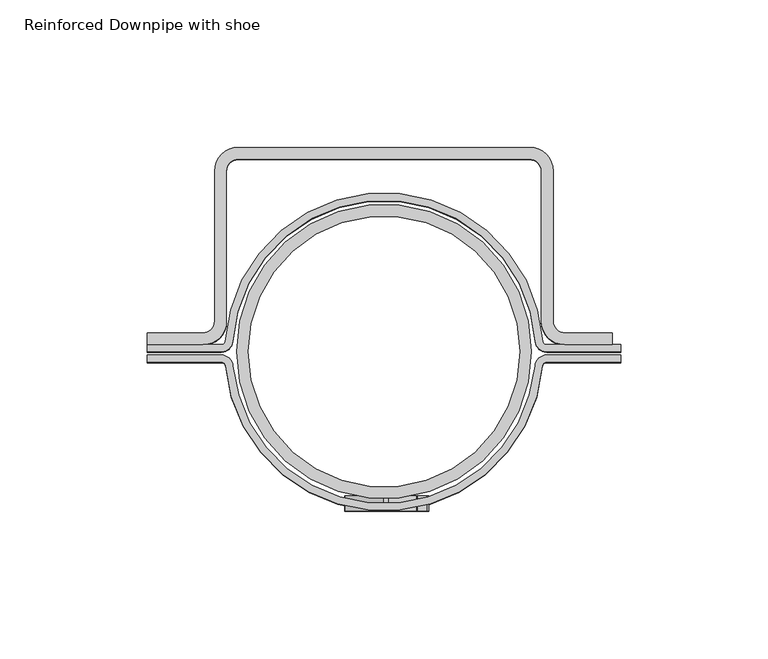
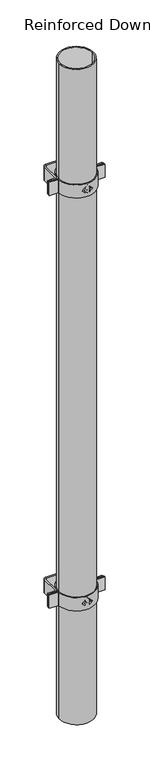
"""IFC4 building model written with IfcOpenShell, lengths in millimetres: proxy geometry, GROVIK_Special_Reinforced Downpipe : Reinforced Downpipe with shoe."""

from ifc_helpers import new_model, si_unit, point, frame, frame_2d, origin, origin_with_axes, origin_2d, place, context, project, spatial, polyline, circle_curve, ellipse_curve, trimmed, segment, composite_curve, outline, extrude, source, transform, mapped, element, save
from ifc_brep_helpers import plane_surface, cylinder_surface, revolved_surface, extruded_surface, advanced_brep


def reinforced_downpipe_with_shoe_aa567863(model_context):
    return source(origin(), model_context, "Body", "SolidModel", [
        advanced_brep(
        [(49.4031355, 65.3999965, 390.0), (53.4038442, 61.3999965, 390.0), (53.4038442, 10.3999972, 390.0), (61.4056235, 2.3999986, 390.0), (77.3803396, 2.3999986, 390.0), (77.3803396, 6.3999965, 390.0), (61.4027586, 6.3999965, 390.0), (57.4027651, 10.3999965, 390.0), (57.4027651, 61.3999965, 390.0), (49.4027779, 69.3999965, 390.0), (-49.4589164, 69.3999965, 390.0), (-57.4589035, 61.3999965, 390.0), (-57.4589035, 10.3999965, 390.0), (-61.4588971, 6.3999965, 390.0), (-80.3198522, 6.3999965, 390.0), (-80.3198522, 2.3999986, 390.0), (-61.4588971, 2.3999986, 390.0), (-53.45891, 10.3999972, 390.0), (-53.45891, 61.3999965, 390.0), (-49.4589164, 65.3999965, 390.0), (49.4031355, 65.3999965, 350.0), (-49.4589164, 65.3999965, 350.0), (-53.45891, 61.3999965, 350.0), (-53.45891, 10.3999972, 350.0), (-61.4588971, 2.3999986, 350.0), (-80.3198522, 2.3999986, 350.0), (-80.3198522, 6.3999965, 350.0), (-61.4588971, 6.3999965, 350.0), (-57.4589035, 10.3999965, 350.0), (-57.4589035, 61.3999965, 350.0), (-49.4589164, 69.3999965, 350.0), (49.4027779, 69.3999965, 350.0), (57.4027651, 61.3999965, 350.0), (57.4027651, 10.3999965, 350.0), (61.4027586, 6.3999965, 350.0), (77.3803396, 6.3999965, 350.0), (77.3803396, 2.3999986, 350.0), (61.4056235, 2.3999986, 350.0), (53.4038442, 10.3999972, 350.0), (53.4038442, 61.3999965, 350.0)],
        [
            (0, 1, ellipse_curve(frame((49.4031355, 61.3999965, 390.0), z_axis=(0.0, 0.0, -1.0), x_axis=(1.0, 0.0, 0.0)), 4.0007087, 4.0)),
            (1, 2),
            (2, 3, ellipse_curve(frame((61.4056235, 10.3999972, 390.0), z_axis=(0.0, 0.0, 1.0), x_axis=(1.0, 0.0, 0.0)), 8.0017793, 7.9999986)),
            (3, 4),
            (4, 5),
            (5, 6),
            (6, 7, ellipse_curve(frame((61.4027586, 10.3999965, 390.0), z_axis=(0.0, 0.0, -1.0), x_axis=(0.0, -1.0, 0.0)), 4.0, 3.9999936)),
            (7, 8),
            (8, 9, ellipse_curve(frame((49.4027779, 61.3999965, 390.0), z_axis=(0.0, 0.0, 1.0), x_axis=(0.0, 1.0, 0.0)), 8.0, 7.9999871)),
            (9, 10),
            (10, 11, ellipse_curve(frame((-49.4589164, 61.3999965, 390.0), z_axis=(0.0, 0.0, 1.0), x_axis=(0.0, 1.0, 0.0)), 8.0, 7.9999871)),
            (11, 12),
            (12, 13, ellipse_curve(frame((-61.4588971, 10.3999965, 390.0), z_axis=(0.0, 0.0, -1.0), x_axis=(0.0, -1.0, 0.0)), 4.0, 3.9999936)),
            (13, 14),
            (14, 15),
            (15, 16),
            (16, 17, ellipse_curve(frame((-61.4588971, 10.3999972, 390.0), z_axis=(0.0, 0.0, 1.0), x_axis=(0.0, 1.0, 0.0)), 7.9999986, 7.9999871)),
            (17, 18),
            (18, 19, ellipse_curve(frame((-49.4589164, 61.3999965, 390.0), z_axis=(0.0, 0.0, -1.0), x_axis=(0.0, 1.0, 0.0)), 4.0, 3.9999936)),
            (19, 0),
            (20, 21),
            (21, 22, ellipse_curve(frame((-49.4589164, 61.3999965, 350.0), z_axis=(0.0, 0.0, 1.0), x_axis=(0.0, 1.0, 0.0)), 4.0, 3.9999936)),
            (22, 23),
            (23, 24, ellipse_curve(frame((-61.4588971, 10.3999972, 350.0), z_axis=(0.0, 0.0, -1.0), x_axis=(0.0, 1.0, 0.0)), 7.9999986, 7.9999871)),
            (24, 25),
            (25, 26),
            (26, 27),
            (27, 28, ellipse_curve(frame((-61.4588971, 10.3999965, 350.0), z_axis=(0.0, 0.0, 1.0), x_axis=(1.0, 0.0, 0.0)), 3.9999936, 4.0)),
            (28, 29),
            (29, 30, ellipse_curve(frame((-49.4589164, 61.3999965, 350.0), z_axis=(0.0, 0.0, -1.0), x_axis=(0.0, 1.0, 0.0)), 8.0, 7.9999871)),
            (30, 31),
            (31, 32, ellipse_curve(frame((49.4027779, 61.3999965, 350.0), z_axis=(0.0, 0.0, -1.0), x_axis=(0.0, 1.0, 0.0)), 8.0, 7.9999871)),
            (32, 33),
            (33, 34, ellipse_curve(frame((61.4027586, 10.3999965, 350.0), z_axis=(0.0, 0.0, 1.0), x_axis=(0.0, -1.0, 0.0)), 4.0, 3.9999936)),
            (34, 35),
            (35, 36),
            (36, 37),
            (37, 38, ellipse_curve(frame((61.4056235, 10.3999972, 350.0), z_axis=(0.0, 0.0, -1.0), x_axis=(0.0, -1.0, 0.0)), 7.9999986, 8.0017793)),
            (38, 39),
            (39, 20, ellipse_curve(frame((49.4031355, 61.3999965, 350.0), z_axis=(0.0, 0.0, 1.0), x_axis=(1.0, 0.0, 0.0)), 4.0007087, 4.0)),
            (0, 20),
            (39, 1),
            (38, 2),
            (37, 3),
            (36, 4),
            (35, 5),
            (34, 6),
            (33, 7),
            (32, 8),
            (31, 9),
            (30, 10),
            (29, 11),
            (28, 12),
            (27, 13),
            (26, 14),
            (25, 15),
            (24, 16),
            (23, 17),
            (22, 18),
            (21, 19),
        ],
        [
            plane_surface(frame((53.4038442, 61.3999965, 390.0), z_axis=(0.0, 0.0, 1.0), x_axis=(0.0, -1.0, 0.0))),
            plane_surface(frame((53.4038442, 61.3999965, 350.0), z_axis=(0.0, 0.0, -1.0), x_axis=(0.0, 1.0, 0.0))),
            extruded_surface(trimmed(ellipse_curve(frame((49.4031355, 61.3999965, 310.0), z_axis=(0.0, 0.0, -1.0), x_axis=(1.0, 0.0, 0.0)), 4.0007087, 4.0), [point((49.4031355, 65.3999965, 310.0))], [point((53.4038442, 61.3999965, 310.0))], True, "CARTESIAN"), (0.0, 0.0, 40.0), 40.0),
            plane_surface(frame((53.4038442, 61.3999965, 390.0), z_axis=(-1.0, 0.0, 0.0), x_axis=(0.0, 0.0, -1.0))),
            extruded_surface(trimmed(ellipse_curve(frame((61.4056235, 10.3999972, 310.0), z_axis=(0.0, 0.0, 1.0), x_axis=(0.0, -1.0, 0.0)), 7.9999986, 8.0017793), [point((53.4038442, 10.3999972, 310.0))], [point((61.4056235, 2.3999986, 310.0))], True, "CARTESIAN"), (0.0, 0.0, 40.0), 40.0),
            plane_surface(frame((61.4056235, 2.3999986, 390.0), z_axis=(0.0, -1.0, 0.0), x_axis=(0.0, 0.0, -1.0))),
            plane_surface(frame((77.3803396, 2.3999986, 390.0), z_axis=(1.0, 0.0, 0.0), x_axis=(0.0, 0.0, -1.0))),
            plane_surface(frame((77.3803396, 6.3999965, 390.0), z_axis=(0.0, 1.0, 0.0), x_axis=(0.0, 0.0, -1.0))),
            extruded_surface(trimmed(ellipse_curve(frame((61.4027586, 10.3999965, 310.0), z_axis=(0.0, 0.0, -1.0), x_axis=(0.0, -1.0, 0.0)), 4.0, 3.9999936), [point((61.4027586, 6.3999965, 310.0))], [point((57.4027651, 10.3999965, 310.0))], True, "CARTESIAN"), (0.0, 0.0, 40.0), 40.0),
            plane_surface(frame((57.4027651, 10.3999965, 390.0), z_axis=(1.0, 0.0, 0.0), x_axis=(0.0, 0.0, -1.0))),
            extruded_surface(trimmed(ellipse_curve(frame((49.4027779, 61.3999965, 310.0), z_axis=(0.0, 0.0, 1.0), x_axis=(0.0, 1.0, 0.0)), 8.0, 7.9999871), [point((57.4027651, 61.3999965, 310.0))], [point((49.4027779, 69.3999965, 310.0))], True, "CARTESIAN"), (0.0, 0.0, 40.0), 40.0),
            plane_surface(frame((49.4027779, 69.3999965, 390.0), z_axis=(0.0, 1.0, 0.0), x_axis=(0.0, 0.0, -1.0))),
            extruded_surface(trimmed(ellipse_curve(frame((-49.4589164, 61.3999965, 310.0), z_axis=(0.0, 0.0, 1.0), x_axis=(0.0, 1.0, 0.0)), 8.0, 7.9999871), [point((-49.4589164, 69.3999965, 310.0))], [point((-57.4589035, 61.3999965, 310.0))], True, "CARTESIAN"), (0.0, 0.0, 40.0), 40.0),
            plane_surface(frame((-57.4589035, 61.3999965, 390.0), z_axis=(-1.0, 0.0, 0.0), x_axis=(0.0, 0.0, -1.0))),
            extruded_surface(trimmed(ellipse_curve(frame((-61.4588971, 10.3999965, 310.0), z_axis=(0.0, 0.0, -1.0), x_axis=(1.0, 0.0, 0.0)), 3.9999936, 4.0), [point((-57.4589035, 10.3999965, 310.0))], [point((-61.4588971, 6.3999965, 310.0))], True, "CARTESIAN"), (0.0, 0.0, 40.0), 40.0),
            plane_surface(frame((-61.4588971, 6.3999965, 390.0), z_axis=(0.0, 1.0, 0.0), x_axis=(0.0, 0.0, -1.0))),
            plane_surface(frame((-80.3198522, 6.3999965, 390.0), z_axis=(-1.0, 0.0, 0.0), x_axis=(0.0, 0.0, -1.0))),
            plane_surface(frame((-80.3198522, 2.3999986, 390.0), z_axis=(0.0, -1.0, 0.0), x_axis=(0.0, 0.0, -1.0))),
            extruded_surface(trimmed(ellipse_curve(frame((-61.4588971, 10.3999972, 310.0), z_axis=(0.0, 0.0, 1.0), x_axis=(0.0, 1.0, 0.0)), 7.9999986, 7.9999871), [point((-61.4588971, 2.3999986, 310.0))], [point((-53.45891, 10.3999972, 310.0))], True, "CARTESIAN"), (0.0, 0.0, 40.0), 40.0),
            plane_surface(frame((-53.45891, 10.3999972, 390.0), z_axis=(1.0, 0.0, 0.0), x_axis=(0.0, 0.0, -1.0))),
            extruded_surface(trimmed(ellipse_curve(frame((-49.4589164, 61.3999965, 310.0), z_axis=(0.0, 0.0, -1.0), x_axis=(0.0, 1.0, 0.0)), 4.0, 3.9999936), [point((-53.45891, 61.3999965, 310.0))], [point((-49.4589164, 65.3999965, 310.0))], True, "CARTESIAN"), (0.0, 0.0, 40.0), 40.0),
            plane_surface(frame((-49.4589164, 65.3999965, 390.0), z_axis=(0.0, -1.0, 0.0), x_axis=(0.0, 0.0, -1.0))),
        ],
        [
            (0, [[1, 2, 3, 4, 5, 6, 7, 8, 9, 10, 11, 12, 13, 14, 15, 16, 17, 18, 19, 20]]),
            (1, [[21, 22, 23, 24, 25, 26, 27, 28, 29, 30, 31, 32, 33, 34, 35, 36, 37, 38, 39, 40]]),
            (2, [[-1, 41, -40, 42]]),
            (3, [[-2, -42, -39, 43]]),
            (4, [[-3, -43, -38, 44]]),
            (5, [[-4, -44, -37, 45]]),
            (6, [[-5, -45, -36, 46]]),
            (7, [[-6, -46, -35, 47]]),
            (8, [[-7, -47, -34, 48]]),
            (9, [[-8, -48, -33, 49]]),
            (10, [[-9, -49, -32, 50]]),
            (11, [[-10, -50, -31, 51]]),
            (12, [[-11, -51, -30, 52]]),
            (13, [[-12, -52, -29, 53]]),
            (14, [[-13, -53, -28, 54]]),
            (15, [[-14, -54, -27, 55]]),
            (16, [[-15, -55, -26, 56]]),
            (17, [[-16, -56, -25, 57]]),
            (18, [[-17, -57, -24, 58]]),
            (19, [[-18, -58, -23, 59]]),
            (20, [[-19, -59, -22, 60]]),
            (21, [[-20, -60, -21, -41]]),
        ],
    ),
        extrude(outline(composite_curve([segment(trimmed(circle_curve(origin_2d(), 53.9779115), [point((53.7640439, -4.8002622))], [point((-53.7640439, -4.8002622))], False, "CARTESIAN"), True, "CONTINUOUS"), segment(trimmed(circle_curve(frame_2d((-55.1584969, -4.9247644)), 1.4), [point((-53.7640439, -4.8002622))], [point((-55.1584969, -3.5247644))], True, "CARTESIAN"), True, "CONTINUOUS"), segment(polyline([(-55.1584969, -3.5247644), (-80.3206157, -3.5247644), (-80.3206157, -1.0895461), (-55.3572815, -1.0895461)]), True, "CONTINUOUS"), segment(trimmed(circle_curve(frame_2d((-55.3572815, -5.1895461)), 4.1), [point((-55.3572815, -1.0895461))], [point((-51.2751798, -4.8068637))], False, "CARTESIAN"), True, "CONTINUOUS"), segment(trimmed(circle_curve(origin_2d(), 51.5), [point((-51.2751798, -4.8068637))], [point((51.2751798, -4.8068637))], True, "CARTESIAN"), True, "CONTINUOUS"), segment(trimmed(circle_curve(frame_2d((55.3572815, -5.1895461)), 4.1), [point((51.2751798, -4.8068637))], [point((55.3572815, -1.0895461))], False, "CARTESIAN"), True, "CONTINUOUS"), segment(polyline([(55.3572815, -1.0895461), (80.3206157, -1.0895461), (80.3206157, -3.5247644), (55.1584969, -3.5247644)]), True, "CONTINUOUS"), segment(trimmed(circle_curve(frame_2d((55.1584969, -4.9247644)), 1.4), [point((55.1584969, -3.5247644))], [point((53.7640439, -4.8002622))], True, "CARTESIAN"), True, "CONTINUOUS")], self_intersect=False)), frame((0.0, 0.0, 350.0), z_axis=(0.0, 0.0, 1.0), x_axis=(1.0, 0.0, 0.0)), (0.0, 0.0, 1.0), 40.0),
        extrude(outline(composite_curve([segment(polyline([(-80.3206157, 0.030981), (-80.3206157, 2.4), (-55.060348, 2.4)]), True, "CONTINUOUS"), segment(trimmed(circle_curve(frame_2d((-55.060348, 3.6)), 1.2), [point((-55.060348, 2.4))], [point((-53.8629048, 3.5217078))], True, "CARTESIAN"), True, "CONTINUOUS"), segment(trimmed(circle_curve(origin_2d(), 53.9779115), [point((-53.8629048, 3.5217078))], [point((53.8629048, 3.5217078))], False, "CARTESIAN"), True, "CONTINUOUS"), segment(trimmed(circle_curve(frame_2d((55.060348, 3.6)), 1.2), [point((53.8629048, 3.5217078))], [point((55.060348, 2.4))], True, "CARTESIAN"), True, "CONTINUOUS"), segment(polyline([(55.060348, 2.4), (80.3206157, 2.4), (80.3206157, 0.030981), (55.1671423, 0.030981)]), True, "CONTINUOUS"), segment(trimmed(circle_curve(frame_2d((55.1671423, 3.830981)), 3.8), [point((55.1671423, 0.030981))], [point((51.3762717, 3.567731))], False, "CARTESIAN"), True, "CONTINUOUS"), segment(trimmed(circle_curve(origin_2d(), 51.5), [point((51.3762717, 3.567731))], [point((-51.3762717, 3.567731))], True, "CARTESIAN"), True, "CONTINUOUS"), segment(trimmed(circle_curve(frame_2d((-55.1671423, 3.830981)), 3.8), [point((-51.3762717, 3.567731))], [point((-55.1671423, 0.030981))], False, "CARTESIAN"), True, "CONTINUOUS"), segment(polyline([(-55.1671423, 0.030981), (-80.3206157, 0.030981)]), True, "CONTINUOUS")], self_intersect=False)), frame((0.0, 0.0, 350.0), z_axis=(0.0, 0.0, 1.0), x_axis=(1.0, 0.0, 0.0)), (0.0, 0.0, 1.0), 40.0),
        advanced_brep(
        [(15.0074452, -53.9779115, 370.3702957), (14.6554236, -53.9779115, 371.2244821), (0.1135175, -53.9779115, 371.250567), (0.0571404, -53.9779115, 369.0208304), (7.7378065, -53.9779115, 368.935265), (8.0851148, -53.9779115, 368.0805643), (1.5927423, -53.9779115, 361.5391979), (0.402719, -53.9779115, 361.3901524), (-8.6884833, -53.9779115, 370.5140196), (-8.686874, -53.9779115, 371.4111867), (0.4375482, -53.9779115, 380.5029242), (1.5906358, -53.9779115, 380.3129279), (7.0995966, -53.9779115, 374.8573801), (8.0888084, -53.9779115, 374.445555), (10.7738438, -53.9779115, 374.4407386), (11.1287855, -53.9779115, 375.2937991), (1.634413, -53.9779115, 384.894078), (-0.0045863, -53.9779115, 384.5994837), (-13.228073, -53.9779115, 371.4233649), (-13.2296928, -53.9779115, 370.5203393), (0.3948919, -53.9779115, 356.8468012), (1.5484381, -53.9779115, 357.0324447), (15.0074452, -48.9779115, 370.3702957), (1.5849152, -48.9779115, 356.9958467), (0.3948919, -48.9779115, 356.8468012), (-13.2296928, -48.9779115, 370.5203393), (-13.228073, -48.9779115, 371.4233649), (-0.0045863, -48.9779115, 384.5994837), (1.5980197, -48.9779115, 384.8573955), (11.1649448, -48.9779115, 375.3293029), (10.7738438, -48.9779115, 374.4407386), (8.0888084, -48.9779115, 374.445555), (7.0995966, -48.9779115, 374.8573801), (1.6270292, -48.9779115, 380.3496105), (0.4375482, -48.9779115, 380.5029242), (-8.686874, -48.9779115, 371.4111867), (-8.6884833, -48.9779115, 370.5140196), (0.402719, -48.9779115, 361.3901524), (1.5562651, -48.9779115, 361.5757959), (8.121225, -48.9779115, 368.0442949), (7.7373749, -48.9779115, 368.9345933), (0.0571404, -48.9779115, 369.0208304), (0.1135175, -48.9779115, 371.250567), (14.6554236, -48.9779115, 371.2244821)],
        [
            (0, 1, circle_curve(frame((14.6545267, -53.9779115, 370.7244829), z_axis=(0.0, -1.0, 0.0), x_axis=(-1.0, 0.0, 0.0)), 0.5)),
            (1, 2),
            (2, 3, circle_curve(frame((0.1085792, -53.9779115, 370.1351108), z_axis=(0.0, -1.0, 0.0), x_axis=(-1.0, 0.0, 0.0)), 1.1154671)),
            (3, 4),
            (4, 5, circle_curve(frame((7.7320659, -53.9779115, 368.4346214), z_axis=(0.0, 1.0, 0.0), x_axis=(-1.0, 0.0, 0.0)), 0.5)),
            (5, 6),
            (6, 7, circle_curve(frame((0.8505361, -53.9779115, 362.2842776), z_axis=(0.0, 1.0, 0.0), x_axis=(-1.0, 0.0, 0.0)), 1.0)),
            (7, 8),
            (8, 9, circle_curve(frame((-7.7939395, -53.9779115, 370.9609999), z_axis=(0.0, 1.0, 0.0), x_axis=(-1.0, 0.0, 0.0)), 1.0)),
            (9, 10),
            (10, 11, circle_curve(frame((0.8821547, -53.9779115, 379.6071982), z_axis=(0.0, 1.0, 0.0), x_axis=(-1.0, 0.0, 0.0)), 1.0)),
            (11, 12),
            (12, 13, circle_curve(frame((8.0913197, -53.9779115, 375.8455527), z_axis=(0.0, -1.0, 0.0), x_axis=(-1.0, 0.0, 0.0)), 1.4)),
            (13, 14),
            (14, 15, circle_curve(frame((10.7747407, -53.9779115, 374.9407378), z_axis=(0.0, -1.0, 0.0), x_axis=(-1.0, 0.0, 0.0)), 0.5)),
            (15, 16),
            (16, 17, circle_curve(frame((0.8895385, -53.9779115, 384.1516658), z_axis=(0.0, -1.0, 0.0), x_axis=(-1.0, 0.0, 0.0)), 1.0)),
            (17, 18),
            (18, 19, circle_curve(frame((-12.3366201, -53.9779115, 370.9702516), z_axis=(0.0, -1.0, 0.0), x_axis=(-1.0, 0.0, 0.0)), 1.0)),
            (19, 20),
            (20, 21, circle_curve(frame((0.842709, -53.9779115, 357.7409265), z_axis=(0.0, -1.0, 0.0), x_axis=(-1.0, 0.0, 0.0)), 1.0)),
            (21, 0),
            (22, 23),
            (23, 24, circle_curve(frame((0.842709, -48.9779115, 357.7409265), z_axis=(0.0, 1.0, 0.0), x_axis=(-1.0, 0.0, 0.0)), 1.0)),
            (24, 25),
            (25, 26, circle_curve(frame((-12.3366201, -48.9779115, 370.9702516), z_axis=(0.0, 1.0, 0.0), x_axis=(-1.0, 0.0, 0.0)), 1.0)),
            (26, 27),
            (27, 28, circle_curve(frame((0.8895385, -48.9779115, 384.1516658), z_axis=(0.0, 1.0, 0.0), x_axis=(-1.0, 0.0, 0.0)), 1.0)),
            (28, 29),
            (29, 30, circle_curve(frame((10.7747407, -48.9779115, 374.9407378), z_axis=(0.0, 1.0, 0.0), x_axis=(-1.0, 0.0, 0.0)), 0.5)),
            (30, 31),
            (31, 32, circle_curve(frame((8.0913197, -48.9779115, 375.8455527), z_axis=(0.0, 1.0, 0.0), x_axis=(-1.0, 0.0, 0.0)), 1.4)),
            (32, 33),
            (33, 34, circle_curve(frame((0.8821547, -48.9779115, 379.6071982), z_axis=(0.0, -1.0, 0.0), x_axis=(-1.0, 0.0, 0.0)), 1.0)),
            (34, 35),
            (35, 36, circle_curve(frame((-7.7939395, -48.9779115, 370.9609999), z_axis=(0.0, -1.0, 0.0), x_axis=(-1.0, 0.0, 0.0)), 1.0)),
            (36, 37),
            (37, 38, circle_curve(frame((0.8505361, -48.9779115, 362.2842776), z_axis=(0.0, -1.0, 0.0), x_axis=(-1.0, 0.0, 0.0)), 1.0)),
            (38, 39),
            (39, 40, circle_curve(frame((7.7320659, -48.9779115, 368.4346214), z_axis=(0.0, -1.0, 0.0), x_axis=(-1.0, 0.0, 0.0)), 0.5)),
            (40, 41),
            (41, 42, circle_curve(frame((0.1085792, -48.9779115, 370.1351108), z_axis=(0.0, 1.0, 0.0), x_axis=(-1.0, 0.0, 0.0)), 1.1154671)),
            (42, 43),
            (43, 22, circle_curve(frame((14.6545267, -48.9779115, 370.7244829), z_axis=(0.0, 1.0, 0.0), x_axis=(-1.0, 0.0, 0.0)), 0.5)),
            (0, 22),
            (43, 1),
            (42, 2),
            (41, 3),
            (40, 4),
            (39, 5),
            (38, 6),
            (37, 7),
            (36, 8),
            (35, 9),
            (34, 10),
            (33, 11),
            (32, 12),
            (31, 13),
            (30, 14),
            (29, 15),
            (28, 16),
            (27, 17),
            (26, 18),
            (25, 19),
            (24, 20),
            (23, 21),
        ],
        [
            plane_surface(frame((14.1545267, -53.9779115, 370.7244829), z_axis=(0.0, -1.0, 0.0), x_axis=(0.0, 0.0, -1.0))),
            plane_surface(frame((14.1545267, -48.9779115, 370.7244829), z_axis=(0.0, 1.0, 0.0), x_axis=(0.0, 0.0, 1.0))),
            cylinder_surface(frame((14.6545267, -48.9779115, 370.7244829), z_axis=(0.0, -1.0, 0.0), x_axis=(-1.0, 0.0, 0.0)), 0.5),
            plane_surface(frame((14.6554236, -53.9779115, 371.2244821), z_axis=(0.0017937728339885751, 0.0, 0.9999983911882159), x_axis=(0.0, 1.0, 0.0))),
            cylinder_surface(frame((0.1085792, -48.9779115, 370.1351108), z_axis=(0.0, -1.0, 0.0), x_axis=(-1.0, 0.0, 0.0)), 1.1154671),
            plane_surface(frame((0.0571404, -53.9779115, 369.0208304), z_axis=(-0.011139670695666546, 0.0, -0.9999379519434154), x_axis=(0.0, 1.0, 0.0))),
            revolved_surface(polyline([(7.2320659, -48.9779115, 368.4346214), (7.2320659, -53.9779115, 368.4346214)]), (7.7320659, -48.9779115, 368.4346214), (0.0, 1.0, 0.0)),
            plane_surface(frame((8.121225, -53.9779115, 368.0442949), z_axis=(-0.7058369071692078, 0.0, 0.7083743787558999), x_axis=(0.0, 1.0, 0.0))),
            revolved_surface(polyline([(-0.14946389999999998, -48.9779115, 362.2842776), (-0.14946389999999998, -53.9779115, 362.2842776)]), (0.8505361, -48.9779115, 362.2842776), (0.0, 1.0, 0.0)),
            plane_surface(frame((0.402719, -53.9779115, 361.3901524), z_axis=(0.7083736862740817, 0.0, 0.7058376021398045), x_axis=(0.0, 1.0, 0.0))),
            revolved_surface(polyline([(-8.7939395, -48.9779115, 370.9609999), (-8.7939395, -53.9779115, 370.9609999)]), (-7.7939395, -48.9779115, 370.9609999), (0.0, 1.0, 0.0)),
            plane_surface(frame((-8.686874, -53.9779115, 371.4111867), z_axis=(0.705836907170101, 0.0, -0.7083743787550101), x_axis=(0.0, 1.0, 0.0))),
            revolved_surface(polyline([(-0.11784530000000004, -48.9779115, 379.6071982), (-0.11784530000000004, -53.9779115, 379.6071982)]), (0.8821547, -48.9779115, 379.6071982), (0.0, 1.0, 0.0)),
            plane_surface(frame((1.6270292, -53.9779115, 380.3496105), z_axis=(-0.7083736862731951, 0.0, -0.7058376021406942), x_axis=(0.0, 1.0, 0.0))),
            cylinder_surface(frame((8.0913197, -48.9779115, 375.8455527), z_axis=(0.0, -1.0, 0.0), x_axis=(-1.0, 0.0, 0.0)), 1.4),
            plane_surface(frame((8.0888084, -53.9779115, 374.445555), z_axis=(-0.0017937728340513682, 0.0, -0.9999983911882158), x_axis=(0.0, 1.0, 0.0))),
            cylinder_surface(frame((10.7747407, -48.9779115, 374.9407378), z_axis=(0.0, -1.0, 0.0), x_axis=(-1.0, 0.0, 0.0)), 0.5),
            plane_surface(frame((11.1649448, -53.9779115, 375.3293029), z_axis=(0.7083736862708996, 0.0, 0.7058376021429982), x_axis=(0.0, 1.0, 0.0))),
            cylinder_surface(frame((0.8895385, -48.9779115, 384.1516658), z_axis=(0.0, -1.0, 0.0), x_axis=(-1.0, 0.0, 0.0)), 1.0),
            plane_surface(frame((-0.0045863, -53.9779115, 384.5994837), z_axis=(-0.7058369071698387, 0.0, 0.7083743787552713), x_axis=(0.0, 1.0, 0.0))),
            cylinder_surface(frame((-12.3366201, -48.9779115, 370.9702516), z_axis=(0.0, -1.0, 0.0), x_axis=(-1.0, 0.0, 0.0)), 1.0),
            plane_surface(frame((-13.2296928, -53.9779115, 370.5203393), z_axis=(-0.7083736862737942, 0.0, -0.7058376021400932), x_axis=(0.0, 1.0, 0.0))),
            cylinder_surface(frame((0.842709, -48.9779115, 357.7409265), z_axis=(0.0, -1.0, 0.0), x_axis=(-1.0, 0.0, 0.0)), 1.0),
            plane_surface(frame((1.5849152, -53.9779115, 356.9958467), z_axis=(0.7058369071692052, 0.0, -0.7083743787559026), x_axis=(0.0, 1.0, 0.0))),
        ],
        [
            (0, [[1, 2, 3, 4, 5, 6, 7, 8, 9, 10, 11, 12, 13, 14, 15, 16, 17, 18, 19, 20, 21, 22]]),
            (1, [[23, 24, 25, 26, 27, 28, 29, 30, 31, 32, 33, 34, 35, 36, 37, 38, 39, 40, 41, 42, 43, 44]]),
            (2, [[-1, 45, -44, 46]]),
            (3, [[-2, -46, -43, 47]]),
            (4, [[-3, -47, -42, 48]]),
            (5, [[-4, -48, -41, 49]]),
            (6, [[-5, -49, -40, 50]]),
            (7, [[-6, -50, -39, 51]]),
            (8, [[-7, -51, -38, 52]]),
            (9, [[-8, -52, -37, 53]]),
            (10, [[-9, -53, -36, 54]]),
            (11, [[-10, -54, -35, 55]]),
            (12, [[-11, -55, -34, 56]]),
            (13, [[-12, -56, -33, 57]]),
            (14, [[-13, -57, -32, 58]]),
            (15, [[-14, -58, -31, 59]]),
            (16, [[-15, -59, -30, 60]]),
            (17, [[-16, -60, -29, 61]]),
            (18, [[-17, -61, -28, 62]]),
            (19, [[-18, -62, -27, 63]]),
            (20, [[-19, -63, -26, 64]]),
            (21, [[-20, -64, -25, 65]]),
            (22, [[-21, -65, -24, 66]]),
            (23, [[-22, -66, -23, -45]]),
        ],
    ),
        advanced_brep(
        [(49.4031355, 65.3999965, 1650.0), (53.4038442, 61.3999965, 1650.0), (53.4038442, 10.3999972, 1650.0), (61.4056235, 2.3999986, 1650.0), (77.3803396, 2.3999986, 1650.0), (77.3803396, 6.3999965, 1650.0), (61.4027586, 6.3999965, 1650.0), (57.4027651, 10.3999965, 1650.0), (57.4027651, 61.3999965, 1650.0), (49.4027779, 69.3999965, 1650.0), (-49.4589164, 69.3999965, 1650.0), (-57.4589035, 61.3999965, 1650.0), (-57.4589035, 10.3999965, 1650.0), (-61.4588971, 6.3999965, 1650.0), (-80.3198522, 6.3999965, 1650.0), (-80.3198522, 2.3999986, 1650.0), (-61.4588971, 2.3999986, 1650.0), (-53.45891, 10.3999972, 1650.0), (-53.45891, 61.3999965, 1650.0), (-49.4589164, 65.3999965, 1650.0), (49.4031355, 65.3999965, 1610.0), (-49.4589164, 65.3999965, 1610.0), (-53.45891, 61.3999965, 1610.0), (-53.45891, 10.3999972, 1610.0), (-61.4588971, 2.3999986, 1610.0), (-80.3198522, 2.3999986, 1610.0), (-80.3198522, 6.3999965, 1610.0), (-61.4588971, 6.3999965, 1610.0), (-57.4589035, 10.3999965, 1610.0), (-57.4589035, 61.3999965, 1610.0), (-49.4589164, 69.3999965, 1610.0), (49.4027779, 69.3999965, 1610.0), (57.4027651, 61.3999965, 1610.0), (57.4027651, 10.3999965, 1610.0), (61.4027586, 6.3999965, 1610.0), (77.3803396, 6.3999965, 1610.0), (77.3803396, 2.3999986, 1610.0), (61.4056235, 2.3999986, 1610.0), (53.4038442, 10.3999972, 1610.0), (53.4038442, 61.3999965, 1610.0)],
        [
            (0, 1, ellipse_curve(frame((49.4031355, 61.3999965, 1650.0), z_axis=(0.0, 0.0, -1.0), x_axis=(1.0, 0.0, 0.0)), 4.0007087, 4.0)),
            (1, 2),
            (2, 3, ellipse_curve(frame((61.4056235, 10.3999972, 1650.0), z_axis=(0.0, 0.0, 1.0), x_axis=(1.0, 0.0, 0.0)), 8.0017793, 7.9999986)),
            (3, 4),
            (4, 5),
            (5, 6),
            (6, 7, ellipse_curve(frame((61.4027586, 10.3999965, 1650.0), z_axis=(0.0, 0.0, -1.0), x_axis=(0.0, -1.0, 0.0)), 4.0, 3.9999936)),
            (7, 8),
            (8, 9, ellipse_curve(frame((49.4027779, 61.3999965, 1650.0), z_axis=(0.0, 0.0, 1.0), x_axis=(0.0, 1.0, 0.0)), 8.0, 7.9999871)),
            (9, 10),
            (10, 11, ellipse_curve(frame((-49.4589164, 61.3999965, 1650.0), z_axis=(0.0, 0.0, 1.0), x_axis=(0.0, 1.0, 0.0)), 8.0, 7.9999871)),
            (11, 12),
            (12, 13, ellipse_curve(frame((-61.4588971, 10.3999965, 1650.0), z_axis=(0.0, 0.0, -1.0), x_axis=(0.0, -1.0, 0.0)), 4.0, 3.9999936)),
            (13, 14),
            (14, 15),
            (15, 16),
            (16, 17, ellipse_curve(frame((-61.4588971, 10.3999972, 1650.0), z_axis=(0.0, 0.0, 1.0), x_axis=(0.0, 1.0, 0.0)), 7.9999986, 7.9999871)),
            (17, 18),
            (18, 19, ellipse_curve(frame((-49.4589164, 61.3999965, 1650.0), z_axis=(0.0, 0.0, -1.0), x_axis=(0.0, 1.0, 0.0)), 4.0, 3.9999936)),
            (19, 0),
            (20, 21),
            (21, 22, ellipse_curve(frame((-49.4589164, 61.3999965, 1610.0), z_axis=(0.0, 0.0, 1.0), x_axis=(0.0, 1.0, 0.0)), 4.0, 3.9999936)),
            (22, 23),
            (23, 24, ellipse_curve(frame((-61.4588971, 10.3999972, 1610.0), z_axis=(0.0, 0.0, -1.0), x_axis=(0.0, 1.0, 0.0)), 7.9999986, 7.9999871)),
            (24, 25),
            (25, 26),
            (26, 27),
            (27, 28, ellipse_curve(frame((-61.4588971, 10.3999965, 1610.0), z_axis=(0.0, 0.0, 1.0), x_axis=(1.0, 0.0, 0.0)), 3.9999936, 4.0)),
            (28, 29),
            (29, 30, ellipse_curve(frame((-49.4589164, 61.3999965, 1610.0), z_axis=(0.0, 0.0, -1.0), x_axis=(0.0, 1.0, 0.0)), 8.0, 7.9999871)),
            (30, 31),
            (31, 32, ellipse_curve(frame((49.4027779, 61.3999965, 1610.0), z_axis=(0.0, 0.0, -1.0), x_axis=(0.0, 1.0, 0.0)), 8.0, 7.9999871)),
            (32, 33),
            (33, 34, ellipse_curve(frame((61.4027586, 10.3999965, 1610.0), z_axis=(0.0, 0.0, 1.0), x_axis=(0.0, -1.0, 0.0)), 4.0, 3.9999936)),
            (34, 35),
            (35, 36),
            (36, 37),
            (37, 38, ellipse_curve(frame((61.4056235, 10.3999972, 1610.0), z_axis=(0.0, 0.0, -1.0), x_axis=(0.0, -1.0, 0.0)), 7.9999986, 8.0017793)),
            (38, 39),
            (39, 20, ellipse_curve(frame((49.4031355, 61.3999965, 1610.0), z_axis=(0.0, 0.0, 1.0), x_axis=(1.0, 0.0, 0.0)), 4.0007087, 4.0)),
            (0, 20),
            (39, 1),
            (38, 2),
            (37, 3),
            (36, 4),
            (35, 5),
            (34, 6),
            (33, 7),
            (32, 8),
            (31, 9),
            (30, 10),
            (29, 11),
            (28, 12),
            (27, 13),
            (26, 14),
            (25, 15),
            (24, 16),
            (23, 17),
            (22, 18),
            (21, 19),
        ],
        [
            plane_surface(frame((53.4038442, 61.3999965, 1650.0), z_axis=(0.0, 0.0, 1.0), x_axis=(0.0, -1.0, 0.0))),
            plane_surface(frame((53.4038442, 61.3999965, 1610.0), z_axis=(0.0, 0.0, -1.0), x_axis=(0.0, 1.0, 0.0))),
            extruded_surface(trimmed(ellipse_curve(frame((49.4031355, 61.3999965, 1570.0), z_axis=(0.0, 0.0, -1.0), x_axis=(1.0, 0.0, 0.0)), 4.0007087, 4.0), [point((49.4031355, 65.3999965, 1570.0))], [point((53.4038442, 61.3999965, 1570.0))], True, "CARTESIAN"), (0.0, 0.0, 40.0), 40.0),
            plane_surface(frame((53.4038442, 61.3999965, 1650.0), z_axis=(-1.0, 0.0, 0.0), x_axis=(0.0, 0.0, -1.0))),
            extruded_surface(trimmed(ellipse_curve(frame((61.4056235, 10.3999972, 1570.0), z_axis=(0.0, 0.0, 1.0), x_axis=(0.0, -1.0, 0.0)), 7.9999986, 8.0017793), [point((53.4038442, 10.3999972, 1570.0))], [point((61.4056235, 2.3999986, 1570.0))], True, "CARTESIAN"), (0.0, 0.0, 40.0), 40.0),
            plane_surface(frame((61.4056235, 2.3999986, 1650.0), z_axis=(0.0, -1.0, 0.0), x_axis=(0.0, 0.0, -1.0))),
            plane_surface(frame((77.3803396, 2.3999986, 1650.0), z_axis=(1.0, 0.0, 0.0), x_axis=(0.0, 0.0, -1.0))),
            plane_surface(frame((77.3803396, 6.3999965, 1650.0), z_axis=(0.0, 1.0, 0.0), x_axis=(0.0, 0.0, -1.0))),
            extruded_surface(trimmed(ellipse_curve(frame((61.4027586, 10.3999965, 1570.0), z_axis=(0.0, 0.0, -1.0), x_axis=(0.0, -1.0, 0.0)), 4.0, 3.9999936), [point((61.4027586, 6.3999965, 1570.0))], [point((57.4027651, 10.3999965, 1570.0))], True, "CARTESIAN"), (0.0, 0.0, 40.0), 40.0),
            plane_surface(frame((57.4027651, 10.3999965, 1650.0), z_axis=(1.0, 0.0, 0.0), x_axis=(0.0, 0.0, -1.0))),
            extruded_surface(trimmed(ellipse_curve(frame((49.4027779, 61.3999965, 1570.0), z_axis=(0.0, 0.0, 1.0), x_axis=(0.0, 1.0, 0.0)), 8.0, 7.9999871), [point((57.4027651, 61.3999965, 1570.0))], [point((49.4027779, 69.3999965, 1570.0))], True, "CARTESIAN"), (0.0, 0.0, 40.0), 40.0),
            plane_surface(frame((49.4027779, 69.3999965, 1650.0), z_axis=(0.0, 1.0, 0.0), x_axis=(0.0, 0.0, -1.0))),
            extruded_surface(trimmed(ellipse_curve(frame((-49.4589164, 61.3999965, 1570.0), z_axis=(0.0, 0.0, 1.0), x_axis=(0.0, 1.0, 0.0)), 8.0, 7.9999871), [point((-49.4589164, 69.3999965, 1570.0))], [point((-57.4589035, 61.3999965, 1570.0))], True, "CARTESIAN"), (0.0, 0.0, 40.0), 40.0),
            plane_surface(frame((-57.4589035, 61.3999965, 1650.0), z_axis=(-1.0, 0.0, 0.0), x_axis=(0.0, 0.0, -1.0))),
            extruded_surface(trimmed(ellipse_curve(frame((-61.4588971, 10.3999965, 1570.0), z_axis=(0.0, 0.0, -1.0), x_axis=(1.0, 0.0, 0.0)), 3.9999936, 4.0), [point((-57.4589035, 10.3999965, 1570.0))], [point((-61.4588971, 6.3999965, 1570.0))], True, "CARTESIAN"), (0.0, 0.0, 40.0), 40.0),
            plane_surface(frame((-61.4588971, 6.3999965, 1650.0), z_axis=(0.0, 1.0, 0.0), x_axis=(0.0, 0.0, -1.0))),
            plane_surface(frame((-80.3198522, 6.3999965, 1650.0), z_axis=(-1.0, 0.0, 0.0), x_axis=(0.0, 0.0, -1.0))),
            plane_surface(frame((-80.3198522, 2.3999986, 1650.0), z_axis=(0.0, -1.0, 0.0), x_axis=(0.0, 0.0, -1.0))),
            extruded_surface(trimmed(ellipse_curve(frame((-61.4588971, 10.3999972, 1570.0), z_axis=(0.0, 0.0, 1.0), x_axis=(0.0, 1.0, 0.0)), 7.9999986, 7.9999871), [point((-61.4588971, 2.3999986, 1570.0))], [point((-53.45891, 10.3999972, 1570.0))], True, "CARTESIAN"), (0.0, 0.0, 40.0), 40.0),
            plane_surface(frame((-53.45891, 10.3999972, 1650.0), z_axis=(1.0, 0.0, 0.0), x_axis=(0.0, 0.0, -1.0))),
            extruded_surface(trimmed(ellipse_curve(frame((-49.4589164, 61.3999965, 1570.0), z_axis=(0.0, 0.0, -1.0), x_axis=(0.0, 1.0, 0.0)), 4.0, 3.9999936), [point((-53.45891, 61.3999965, 1570.0))], [point((-49.4589164, 65.3999965, 1570.0))], True, "CARTESIAN"), (0.0, 0.0, 40.0), 40.0),
            plane_surface(frame((-49.4589164, 65.3999965, 1650.0), z_axis=(0.0, -1.0, 0.0), x_axis=(0.0, 0.0, -1.0))),
        ],
        [
            (0, [[1, 2, 3, 4, 5, 6, 7, 8, 9, 10, 11, 12, 13, 14, 15, 16, 17, 18, 19, 20]]),
            (1, [[21, 22, 23, 24, 25, 26, 27, 28, 29, 30, 31, 32, 33, 34, 35, 36, 37, 38, 39, 40]]),
            (2, [[-1, 41, -40, 42]]),
            (3, [[-2, -42, -39, 43]]),
            (4, [[-3, -43, -38, 44]]),
            (5, [[-4, -44, -37, 45]]),
            (6, [[-5, -45, -36, 46]]),
            (7, [[-6, -46, -35, 47]]),
            (8, [[-7, -47, -34, 48]]),
            (9, [[-8, -48, -33, 49]]),
            (10, [[-9, -49, -32, 50]]),
            (11, [[-10, -50, -31, 51]]),
            (12, [[-11, -51, -30, 52]]),
            (13, [[-12, -52, -29, 53]]),
            (14, [[-13, -53, -28, 54]]),
            (15, [[-14, -54, -27, 55]]),
            (16, [[-15, -55, -26, 56]]),
            (17, [[-16, -56, -25, 57]]),
            (18, [[-17, -57, -24, 58]]),
            (19, [[-18, -58, -23, 59]]),
            (20, [[-19, -59, -22, 60]]),
            (21, [[-20, -60, -21, -41]]),
        ],
    ),
        extrude(outline(composite_curve([segment(trimmed(circle_curve(origin_2d(), 53.9779115), [point((53.7640439, -4.8002622))], [point((-53.7640439, -4.8002622))], False, "CARTESIAN"), True, "CONTINUOUS"), segment(trimmed(circle_curve(frame_2d((-55.1584969, -4.9247644)), 1.4), [point((-53.7640439, -4.8002622))], [point((-55.1584969, -3.5247644))], True, "CARTESIAN"), True, "CONTINUOUS"), segment(polyline([(-55.1584969, -3.5247644), (-80.3206157, -3.5247644), (-80.3206157, -1.0895461), (-55.3572815, -1.0895461)]), True, "CONTINUOUS"), segment(trimmed(circle_curve(frame_2d((-55.3572815, -5.1895461)), 4.1), [point((-55.3572815, -1.0895461))], [point((-51.2751798, -4.8068637))], False, "CARTESIAN"), True, "CONTINUOUS"), segment(trimmed(circle_curve(origin_2d(), 51.5), [point((-51.2751798, -4.8068637))], [point((51.2751798, -4.8068637))], True, "CARTESIAN"), True, "CONTINUOUS"), segment(trimmed(circle_curve(frame_2d((55.3572815, -5.1895461)), 4.1), [point((51.2751798, -4.8068637))], [point((55.3572815, -1.0895461))], False, "CARTESIAN"), True, "CONTINUOUS"), segment(polyline([(55.3572815, -1.0895461), (80.3206157, -1.0895461), (80.3206157, -3.5247644), (55.1584969, -3.5247644)]), True, "CONTINUOUS"), segment(trimmed(circle_curve(frame_2d((55.1584969, -4.9247644)), 1.4), [point((55.1584969, -3.5247644))], [point((53.7640439, -4.8002622))], True, "CARTESIAN"), True, "CONTINUOUS")], self_intersect=False)), frame((0.0, 0.0, 1610.0), z_axis=(0.0, 0.0, 1.0), x_axis=(1.0, 0.0, 0.0)), (0.0, 0.0, 1.0), 40.0),
        extrude(outline(composite_curve([segment(polyline([(-80.3206157, 0.030981), (-80.3206157, 2.4), (-55.060348, 2.4)]), True, "CONTINUOUS"), segment(trimmed(circle_curve(frame_2d((-55.060348, 3.6)), 1.2), [point((-55.060348, 2.4))], [point((-53.8629048, 3.5217078))], True, "CARTESIAN"), True, "CONTINUOUS"), segment(trimmed(circle_curve(origin_2d(), 53.9779115), [point((-53.8629048, 3.5217078))], [point((53.8629048, 3.5217078))], False, "CARTESIAN"), True, "CONTINUOUS"), segment(trimmed(circle_curve(frame_2d((55.060348, 3.6)), 1.2), [point((53.8629048, 3.5217078))], [point((55.060348, 2.4))], True, "CARTESIAN"), True, "CONTINUOUS"), segment(polyline([(55.060348, 2.4), (80.3206157, 2.4), (80.3206157, 0.030981), (55.1671423, 0.030981)]), True, "CONTINUOUS"), segment(trimmed(circle_curve(frame_2d((55.1671423, 3.830981)), 3.8), [point((55.1671423, 0.030981))], [point((51.3762717, 3.567731))], False, "CARTESIAN"), True, "CONTINUOUS"), segment(trimmed(circle_curve(origin_2d(), 51.5), [point((51.3762717, 3.567731))], [point((-51.3762717, 3.567731))], True, "CARTESIAN"), True, "CONTINUOUS"), segment(trimmed(circle_curve(frame_2d((-55.1671423, 3.830981)), 3.8), [point((-51.3762717, 3.567731))], [point((-55.1671423, 0.030981))], False, "CARTESIAN"), True, "CONTINUOUS"), segment(polyline([(-55.1671423, 0.030981), (-80.3206157, 0.030981)]), True, "CONTINUOUS")], self_intersect=False)), frame((0.0, 0.0, 1610.0), z_axis=(0.0, 0.0, 1.0), x_axis=(1.0, 0.0, 0.0)), (0.0, 0.0, 1.0), 40.0),
        advanced_brep(
        [(15.0074452, -53.9779115, 1630.3702957), (14.6554236, -53.9779115, 1631.2244821), (0.1135175, -53.9779115, 1631.250567), (0.0571404, -53.9779115, 1629.0208304), (7.7378065, -53.9779115, 1628.935265), (8.0851148, -53.9779115, 1628.0805643), (1.5927423, -53.9779115, 1621.5391979), (0.402719, -53.9779115, 1621.3901524), (-8.6884833, -53.9779115, 1630.5140196), (-8.686874, -53.9779115, 1631.4111867), (0.4375482, -53.9779115, 1640.5029242), (1.5906358, -53.9779115, 1640.3129279), (7.0995966, -53.9779115, 1634.8573801), (8.0888084, -53.9779115, 1634.445555), (10.7738438, -53.9779115, 1634.4407386), (11.1287855, -53.9779115, 1635.2937991), (1.634413, -53.9779115, 1644.894078), (-0.0045863, -53.9779115, 1644.5994837), (-13.228073, -53.9779115, 1631.4233649), (-13.2296928, -53.9779115, 1630.5203393), (0.3948919, -53.9779115, 1616.8468012), (1.5484381, -53.9779115, 1617.0324447), (15.0074452, -48.9779115, 1630.3702957), (1.5849152, -48.9779115, 1616.9958467), (0.3948919, -48.9779115, 1616.8468012), (-13.2296928, -48.9779115, 1630.5203393), (-13.228073, -48.9779115, 1631.4233649), (-0.0045863, -48.9779115, 1644.5994837), (1.5980197, -48.9779115, 1644.8573955), (11.1649448, -48.9779115, 1635.3293029), (10.7738438, -48.9779115, 1634.4407386), (8.0888084, -48.9779115, 1634.445555), (7.0995966, -48.9779115, 1634.8573801), (1.6270292, -48.9779115, 1640.3496105), (0.4375482, -48.9779115, 1640.5029242), (-8.686874, -48.9779115, 1631.4111867), (-8.6884833, -48.9779115, 1630.5140196), (0.402719, -48.9779115, 1621.3901524), (1.5562651, -48.9779115, 1621.5757959), (8.121225, -48.9779115, 1628.0442949), (7.7373749, -48.9779115, 1628.9345933), (0.0571404, -48.9779115, 1629.0208304), (0.1135175, -48.9779115, 1631.250567), (14.6554236, -48.9779115, 1631.2244821)],
        [
            (0, 1, circle_curve(frame((14.6545267, -53.9779115, 1630.7244829), z_axis=(0.0, -1.0, 0.0), x_axis=(-1.0, 0.0, 0.0)), 0.5)),
            (1, 2),
            (2, 3, circle_curve(frame((0.1085792, -53.9779115, 1630.1351108), z_axis=(0.0, -1.0, 0.0), x_axis=(-1.0, 0.0, 0.0)), 1.1154671)),
            (3, 4),
            (4, 5, circle_curve(frame((7.7320659, -53.9779115, 1628.4346214), z_axis=(0.0, 1.0, 0.0), x_axis=(-1.0, 0.0, 0.0)), 0.5)),
            (5, 6),
            (6, 7, circle_curve(frame((0.8505361, -53.9779115, 1622.2842776), z_axis=(0.0, 1.0, 0.0), x_axis=(-1.0, 0.0, 0.0)), 1.0)),
            (7, 8),
            (8, 9, circle_curve(frame((-7.7939395, -53.9779115, 1630.9609999), z_axis=(0.0, 1.0, 0.0), x_axis=(-1.0, 0.0, 0.0)), 1.0)),
            (9, 10),
            (10, 11, circle_curve(frame((0.8821547, -53.9779115, 1639.6071982), z_axis=(0.0, 1.0, 0.0), x_axis=(-1.0, 0.0, 0.0)), 1.0)),
            (11, 12),
            (12, 13, circle_curve(frame((8.0913197, -53.9779115, 1635.8455527), z_axis=(0.0, -1.0, 0.0), x_axis=(-1.0, 0.0, 0.0)), 1.4)),
            (13, 14),
            (14, 15, circle_curve(frame((10.7747407, -53.9779115, 1634.9407378), z_axis=(0.0, -1.0, 0.0), x_axis=(-1.0, 0.0, 0.0)), 0.5)),
            (15, 16),
            (16, 17, circle_curve(frame((0.8895385, -53.9779115, 1644.1516658), z_axis=(0.0, -1.0, 0.0), x_axis=(-1.0, 0.0, 0.0)), 1.0)),
            (17, 18),
            (18, 19, circle_curve(frame((-12.3366201, -53.9779115, 1630.9702516), z_axis=(0.0, -1.0, 0.0), x_axis=(-1.0, 0.0, 0.0)), 1.0)),
            (19, 20),
            (20, 21, circle_curve(frame((0.842709, -53.9779115, 1617.7409265), z_axis=(0.0, -1.0, 0.0), x_axis=(-1.0, 0.0, 0.0)), 1.0)),
            (21, 0),
            (22, 23),
            (23, 24, circle_curve(frame((0.842709, -48.9779115, 1617.7409265), z_axis=(0.0, 1.0, 0.0), x_axis=(-1.0, 0.0, 0.0)), 1.0)),
            (24, 25),
            (25, 26, circle_curve(frame((-12.3366201, -48.9779115, 1630.9702516), z_axis=(0.0, 1.0, 0.0), x_axis=(-1.0, 0.0, 0.0)), 1.0)),
            (26, 27),
            (27, 28, circle_curve(frame((0.8895385, -48.9779115, 1644.1516658), z_axis=(0.0, 1.0, 0.0), x_axis=(-1.0, 0.0, 0.0)), 1.0)),
            (28, 29),
            (29, 30, circle_curve(frame((10.7747407, -48.9779115, 1634.9407378), z_axis=(0.0, 1.0, 0.0), x_axis=(-1.0, 0.0, 0.0)), 0.5)),
            (30, 31),
            (31, 32, circle_curve(frame((8.0913197, -48.9779115, 1635.8455527), z_axis=(0.0, 1.0, 0.0), x_axis=(-1.0, 0.0, 0.0)), 1.4)),
            (32, 33),
            (33, 34, circle_curve(frame((0.8821547, -48.9779115, 1639.6071982), z_axis=(0.0, -1.0, 0.0), x_axis=(-1.0, 0.0, 0.0)), 1.0)),
            (34, 35),
            (35, 36, circle_curve(frame((-7.7939395, -48.9779115, 1630.9609999), z_axis=(0.0, -1.0, 0.0), x_axis=(-1.0, 0.0, 0.0)), 1.0)),
            (36, 37),
            (37, 38, circle_curve(frame((0.8505361, -48.9779115, 1622.2842776), z_axis=(0.0, -1.0, 0.0), x_axis=(-1.0, 0.0, 0.0)), 1.0)),
            (38, 39),
            (39, 40, circle_curve(frame((7.7320659, -48.9779115, 1628.4346214), z_axis=(0.0, -1.0, 0.0), x_axis=(-1.0, 0.0, 0.0)), 0.5)),
            (40, 41),
            (41, 42, circle_curve(frame((0.1085792, -48.9779115, 1630.1351108), z_axis=(0.0, 1.0, 0.0), x_axis=(-1.0, 0.0, 0.0)), 1.1154671)),
            (42, 43),
            (43, 22, circle_curve(frame((14.6545267, -48.9779115, 1630.7244829), z_axis=(0.0, 1.0, 0.0), x_axis=(-1.0, 0.0, 0.0)), 0.5)),
            (0, 22),
            (43, 1),
            (42, 2),
            (41, 3),
            (40, 4),
            (39, 5),
            (38, 6),
            (37, 7),
            (36, 8),
            (35, 9),
            (34, 10),
            (33, 11),
            (32, 12),
            (31, 13),
            (30, 14),
            (29, 15),
            (28, 16),
            (27, 17),
            (26, 18),
            (25, 19),
            (24, 20),
            (23, 21),
        ],
        [
            plane_surface(frame((14.1545267, -53.9779115, 1630.7244829), z_axis=(0.0, -1.0, 0.0), x_axis=(0.0, 0.0, -1.0))),
            plane_surface(frame((14.1545267, -48.9779115, 1630.7244829), z_axis=(0.0, 1.0, 0.0), x_axis=(0.0, 0.0, 1.0))),
            cylinder_surface(frame((14.6545267, -48.9779115, 1630.7244829), z_axis=(0.0, -1.0, 0.0), x_axis=(-1.0, 0.0, 0.0)), 0.5),
            plane_surface(frame((14.6554236, -53.9779115, 1631.2244821), z_axis=(0.0017937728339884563, 0.0, 0.9999983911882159), x_axis=(0.0, 1.0, 0.0))),
            cylinder_surface(frame((0.1085792, -48.9779115, 1630.1351108), z_axis=(0.0, -1.0, 0.0), x_axis=(-1.0, 0.0, 0.0)), 1.1154671),
            plane_surface(frame((0.0571404, -53.9779115, 1629.0208304), z_axis=(-0.011139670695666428, 0.0, -0.9999379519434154), x_axis=(0.0, 1.0, 0.0))),
            revolved_surface(polyline([(7.2320659, -48.9779115, 1628.4346214), (7.2320659, -53.9779115, 1628.4346214)]), (7.7320659, -48.9779115, 1628.4346214), (0.0, 1.0, 0.0)),
            plane_surface(frame((8.121225, -53.9779115, 1628.0442949), z_axis=(-0.7058369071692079, 0.0, 0.7083743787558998), x_axis=(0.0, 1.0, 0.0))),
            revolved_surface(polyline([(-0.14946389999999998, -48.9779115, 1622.2842776), (-0.14946389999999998, -53.9779115, 1622.2842776)]), (0.8505361, -48.9779115, 1622.2842776), (0.0, 1.0, 0.0)),
            plane_surface(frame((0.402719, -53.9779115, 1621.3901524), z_axis=(0.7083736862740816, 0.0, 0.7058376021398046), x_axis=(0.0, 1.0, 0.0))),
            revolved_surface(polyline([(-8.7939395, -48.9779115, 1630.9609999), (-8.7939395, -53.9779115, 1630.9609999)]), (-7.7939395, -48.9779115, 1630.9609999), (0.0, 1.0, 0.0)),
            plane_surface(frame((-8.686874, -53.9779115, 1631.4111867), z_axis=(0.7058369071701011, 0.0, -0.70837437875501), x_axis=(0.0, 1.0, 0.0))),
            revolved_surface(polyline([(-0.11784530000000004, -48.9779115, 1639.6071982), (-0.11784530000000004, -53.9779115, 1639.6071982)]), (0.8821547, -48.9779115, 1639.6071982), (0.0, 1.0, 0.0)),
            plane_surface(frame((1.6270292, -53.9779115, 1640.3496105), z_axis=(-0.708373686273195, 0.0, -0.7058376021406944), x_axis=(0.0, 1.0, 0.0))),
            cylinder_surface(frame((8.0913197, -48.9779115, 1635.8455527), z_axis=(0.0, -1.0, 0.0), x_axis=(-1.0, 0.0, 0.0)), 1.4),
            plane_surface(frame((8.0888084, -53.9779115, 1634.445555), z_axis=(-0.0017937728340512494, 0.0, -0.9999983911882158), x_axis=(0.0, 1.0, 0.0))),
            cylinder_surface(frame((10.7747407, -48.9779115, 1634.9407378), z_axis=(0.0, -1.0, 0.0), x_axis=(-1.0, 0.0, 0.0)), 0.5),
            plane_surface(frame((11.1649448, -53.9779115, 1635.3293029), z_axis=(0.7083736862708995, 0.0, 0.7058376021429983), x_axis=(0.0, 1.0, 0.0))),
            cylinder_surface(frame((0.8895385, -48.9779115, 1644.1516658), z_axis=(0.0, -1.0, 0.0), x_axis=(-1.0, 0.0, 0.0)), 1.0),
            plane_surface(frame((-0.0045863, -53.9779115, 1644.5994837), z_axis=(-0.7058369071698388, 0.0, 0.7083743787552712), x_axis=(0.0, 1.0, 0.0))),
            cylinder_surface(frame((-12.3366201, -48.9779115, 1630.9702516), z_axis=(0.0, -1.0, 0.0), x_axis=(-1.0, 0.0, 0.0)), 1.0),
            plane_surface(frame((-13.2296928, -53.9779115, 1630.5203393), z_axis=(-0.708373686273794, 0.0, -0.7058376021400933), x_axis=(0.0, 1.0, 0.0))),
            cylinder_surface(frame((0.842709, -48.9779115, 1617.7409265), z_axis=(0.0, -1.0, 0.0), x_axis=(-1.0, 0.0, 0.0)), 1.0),
            plane_surface(frame((1.5849152, -53.9779115, 1616.9958467), z_axis=(0.7058369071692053, 0.0, -0.7083743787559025), x_axis=(0.0, 1.0, 0.0))),
        ],
        [
            (0, [[1, 2, 3, 4, 5, 6, 7, 8, 9, 10, 11, 12, 13, 14, 15, 16, 17, 18, 19, 20, 21, 22]]),
            (1, [[23, 24, 25, 26, 27, 28, 29, 30, 31, 32, 33, 34, 35, 36, 37, 38, 39, 40, 41, 42, 43, 44]]),
            (2, [[-1, 45, -44, 46]]),
            (3, [[-2, -46, -43, 47]]),
            (4, [[-3, -47, -42, 48]]),
            (5, [[-4, -48, -41, 49]]),
            (6, [[-5, -49, -40, 50]]),
            (7, [[-6, -50, -39, 51]]),
            (8, [[-7, -51, -38, 52]]),
            (9, [[-8, -52, -37, 53]]),
            (10, [[-9, -53, -36, 54]]),
            (11, [[-10, -54, -35, 55]]),
            (12, [[-11, -55, -34, 56]]),
            (13, [[-12, -56, -33, 57]]),
            (14, [[-13, -57, -32, 58]]),
            (15, [[-14, -58, -31, 59]]),
            (16, [[-15, -59, -30, 60]]),
            (17, [[-16, -60, -29, 61]]),
            (18, [[-17, -61, -28, 62]]),
            (19, [[-18, -62, -27, 63]]),
            (20, [[-19, -63, -26, 64]]),
            (21, [[-20, -64, -25, 65]]),
            (22, [[-21, -65, -24, 66]]),
            (23, [[-22, -66, -23, -45]]),
        ],
    ),
        extrude(outline(composite_curve([segment(trimmed(circle_curve(origin_2d(), 50.0), [point((-50.0, 0.0))], [point((50.0, 0.0))], False, "CARTESIAN"), True, "CONTINUOUS"), segment(trimmed(circle_curve(origin_2d(), 50.0), [point((50.0, 0.0))], [point((-50.0, 0.0))], False, "CARTESIAN"), True, "CONTINUOUS")], self_intersect=False), holes=[composite_curve([segment(trimmed(circle_curve(origin_2d(), 46.0), [point((-46.0, 0.0))], [point((46.0, 0.0))], True, "CARTESIAN"), True, "CONTINUOUS"), segment(trimmed(circle_curve(origin_2d(), 46.0), [point((46.0, 0.0))], [point((-46.0, 0.0))], True, "CARTESIAN"), True, "CONTINUOUS")], self_intersect=False)]), origin_with_axes(), (0.0, 0.0, 1.0), 2000.0),
    ])


if __name__ == "__main__":
    model = new_model("IFC4")
    model_context = context("Model", 3, world=origin())
    ifc_project = project(units=[si_unit("LENGTHUNIT", "METRE", prefix="MILLI")], contexts=[model_context])
    site = spatial("IfcSite", under=ifc_project)
    building = spatial("IfcBuilding", under=site)
    placement = place(None, origin())
    reinforced_downpipe_with_shoe_shape = reinforced_downpipe_with_shoe_aa567863(model_context)
    element("IfcBuildingElementProxy", 1, Name="GROVIK_Special_Reinforced Downpipe : Reinforced Downpipe with shoe", ObjectType="GROVIK_Special_Reinforced Downpipe : Reinforced Downpipe with shoe", at=placement, inside=building, context=model_context, shape_type="MappedRepresentation", body=[
        mapped(reinforced_downpipe_with_shoe_shape, transform((0.0, 0.0, 0.0), x_axis=(1.0, 0.0, 0.0), y_axis=(0.0, 1.0, 0.0), z_axis=(0.0, 0.0, 1.0))),
    ])
    save(model, "model.ifc")
